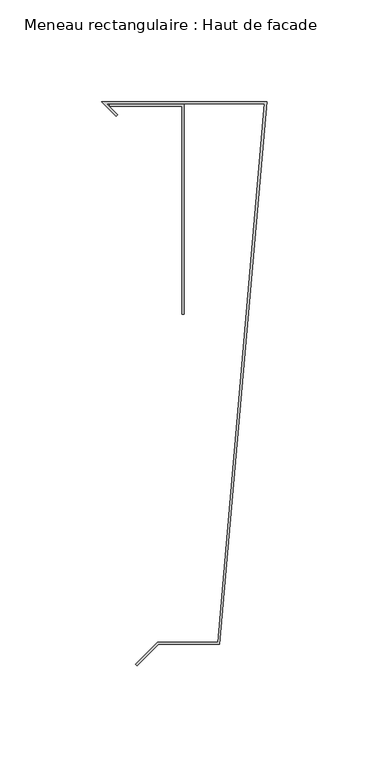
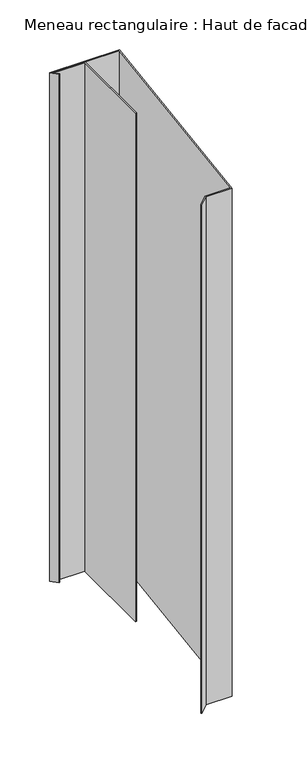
"""IFC4 building model written with IfcOpenShell, lengths in millimetres: member geometry, Meneau rectangulaire : Haut de facade."""

from ifc_helpers import new_model, si_unit, frame, origin, place, context, project, spatial, polyline, outline, extrude, source, transform, mapped, element, save


def meneau_rectangulaire_haut_de_facade_87188652(model_context):
    return source(origin(), model_context, "Body", "SweptSolid", [
        extrude(outline(polyline([(-24.0647895, -160.703755), (-1.0913085, 103.2), (-78.5857864, 103.2), (-73.2218254, 97.836039), (-73.9289322, 97.1289322), (-81.0, 104.2), (0.0, 104.2), (-23.1484584, -161.703755), (-53.1484584, -161.703755), (-63.7550601, -172.3103567), (-64.4621669, -171.6032499), (-53.5626719, -160.703755), (-24.0647895, -160.703755)])), frame((0.0, 0.0, -623.0), z_axis=(0.0, 0.0, 1.0), x_axis=(1.0, 0.0, 0.0)), (0.0, 0.0, 1.0), 623.0),
        extrude(outline(polyline([(-40.5477541, 102.9846816), (-40.5477541, 0.0384227), (-41.5477541, 0.0384227), (-41.5477541, 101.9846816), (-77.0752814, 101.9846816), (-77.0752814, 102.9846816), (-40.5477541, 102.9846816)])), frame((0.0, 0.0, -623.0), z_axis=(0.0, 0.0, 1.0), x_axis=(1.0, 0.0, 0.0)), (0.0, 0.0, 1.0), 623.0),
    ])


if __name__ == "__main__":
    model = new_model("IFC4")
    model_context = context("Model", 3, world=origin())
    ifc_project = project(units=[si_unit("LENGTHUNIT", "METRE", prefix="MILLI")], contexts=[model_context])
    site = spatial("IfcSite", under=ifc_project)
    building = spatial("IfcBuilding", under=site)
    placement = place(None, origin())
    meneau_rectangulaire_haut_de_facade_shape = meneau_rectangulaire_haut_de_facade_87188652(model_context)
    element("IfcMember", 1, ObjectType="Meneau rectangulaire : Haut de facade", at=placement, inside=building, context=model_context, shape_type="MappedRepresentation", body=[
        mapped(meneau_rectangulaire_haut_de_facade_shape, transform((0.0, 0.0, 0.0), x_axis=(1.0, 0.0, 0.0), y_axis=(0.0, 1.0, 0.0), z_axis=(0.0, 0.0, 1.0))),
    ])
    save(model, "model.ifc")
